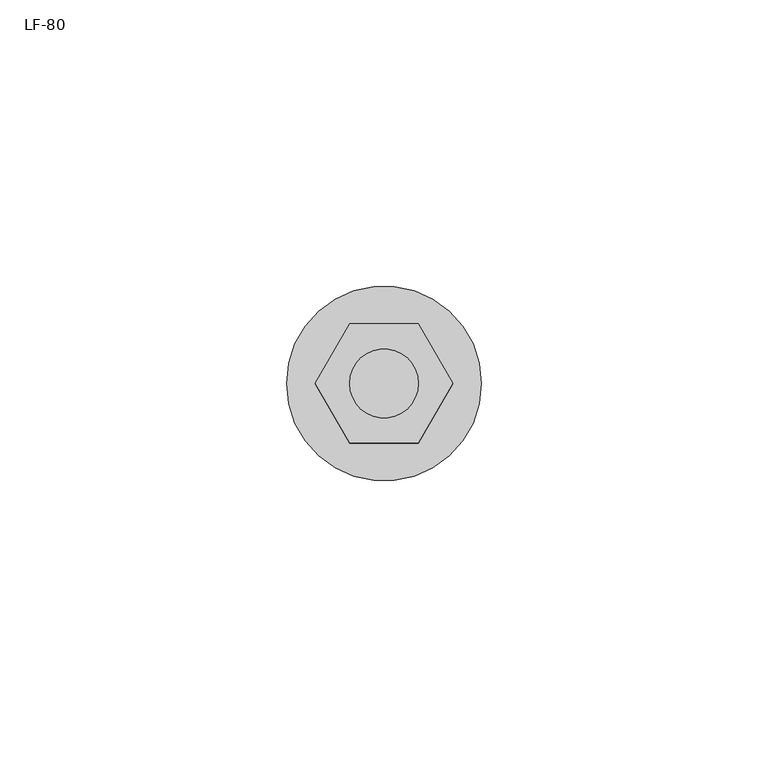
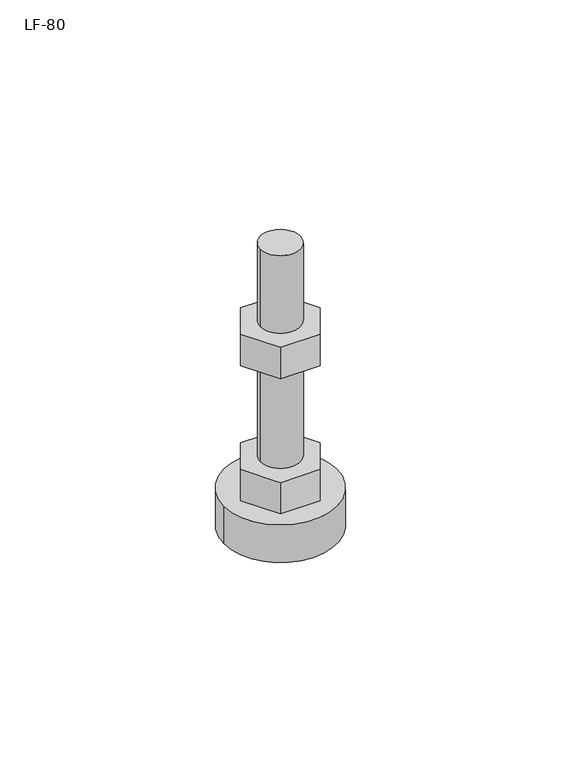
"""IFC4 building model written with IfcOpenShell, lengths in millimetres: proxy geometry, Регулируемая ножка : LF-80."""

import ifcopenshell
import ifcopenshell.guid

model = None  # the IFC model being written
_history = None  # IfcOwnerHistory: only IFC2X3 demands one
_inside = {}  # id of a spatial element -> (the spatial element, [elements in it])
_under = {}  # id of a project, library or spatial element -> (it, [spatial elements below it])
_declared = {}  # id of a project -> (the project, [libraries it declares])
_typed = {}  # id of a type object -> (the type object, [elements of that type])
_made_of = {}  # id of a material, layer set ... -> (it, [elements and type objects made of it])


def new_model(schema):
    """Start an empty IFC model of exactly this schema.

    Asked for "IFC4X3", IfcOpenShell would pick the latest addendum, in which some entities
    have other attributes; the version numbers below select the first issue.
    IFC2X3 requires an IfcOwnerHistory on every rooted entity: one is made here for all.
    """
    global model, _history
    if schema == "IFC4X3":
        model = ifcopenshell.file(schema_version=(4, 3, 0, 0))
    else:
        model = ifcopenshell.file(schema=schema)
    _inside.clear()
    _under.clear()
    _declared.clear()
    _typed.clear()
    _made_of.clear()
    _history = None
    if model.schema == "IFC2X3":
        org = make("IfcOrganization", Name="unknown")
        user = make(
            "IfcPersonAndOrganization",
            ThePerson=make("IfcPerson", FamilyName="unknown"),
            TheOrganization=org,
        )
        app = make(
            "IfcApplication",
            ApplicationDeveloper=org,
            Version="unknown",
            ApplicationFullName="unknown",
            ApplicationIdentifier="unknown",
        )
        _history = make(
            "IfcOwnerHistory",
            OwningUser=user,
            OwningApplication=app,
            ChangeAction="ADDED",
            CreationDate=0,
        )
    return model


def make(cls, **values):
    """One entity of the class cls with the attributes given. An attribute that is None is left unset."""
    return model.create_entity(
        cls, **{name: value for name, value in values.items() if value is not None}
    )


def rooted(cls, **values):
    """An entity with a GlobalId (a new one), such as an element, a storey or a relation."""
    return make(cls, GlobalId=ifcopenshell.guid.new(), OwnerHistory=_history, **values)


def si_unit(unit_type, name, prefix=None):
    """IfcSIUnit, for example si_unit("LENGTHUNIT", "METRE", prefix="MILLI")."""
    return make("IfcSIUnit", UnitType=unit_type, Prefix=prefix, Name=name)


def assignment(units):
    """IfcUnitAssignment: the units of a project."""
    return None if units is None else make("IfcUnitAssignment", Units=units)


def point(xyz):
    """IfcCartesianPoint."""
    return None if xyz is None else make("IfcCartesianPoint", Coordinates=xyz)


def direction(xyz):
    """IfcDirection."""
    return None if xyz is None else make("IfcDirection", DirectionRatios=xyz)


def frame(location, z_axis=None, x_axis=None):
    """IfcAxis2Placement3D, a coordinate frame: its origin and axes. An axis left out is left unset."""
    return make(
        "IfcAxis2Placement3D",
        Location=point(location),
        Axis=direction(z_axis),
        RefDirection=direction(x_axis),
    )


def frame_2d(location, x_axis=None):
    """IfcAxis2Placement2D, a coordinate frame in the plane: its origin and x axis."""
    return make(
        "IfcAxis2Placement2D", Location=point(location), RefDirection=direction(x_axis)
    )


def origin():
    """The frame at (0, 0, 0) with its axes left unset."""
    return frame((0.0, 0.0, 0.0))


def origin_with_axes():
    """The frame at (0, 0, 0) with the z axis (0, 0, 1) and the x axis (1, 0, 0) written out."""
    return frame((0.0, 0.0, 0.0), z_axis=(0.0, 0.0, 1.0), x_axis=(1.0, 0.0, 0.0))


def origin_2d():
    """The frame at (0, 0) in the plane with its x axis left unset."""
    return frame_2d((0.0, 0.0))


def place(relative_to, where):
    """IfcLocalPlacement: puts the frame where relative to a parent placement (None: the world)."""
    return make(
        "IfcLocalPlacement", PlacementRelTo=relative_to, RelativePlacement=where
    )


def context(
    kind, dimensions, precision=None, world=None, true_north=None, identifier=None
):
    """IfcGeometricRepresentationContext, for example the 3D "Model" context."""
    return make(
        "IfcGeometricRepresentationContext",
        ContextIdentifier=identifier,
        ContextType=kind,
        CoordinateSpaceDimension=dimensions,
        Precision=precision,
        WorldCoordinateSystem=world,
        TrueNorth=true_north,
    )


def project(units=None, contexts=None):
    """IfcProject with its units and contexts."""
    return rooted(
        "IfcProject",
        Name="project",
        RepresentationContexts=contexts,
        UnitsInContext=assignment(units),
    )


def spatial(cls, under=None, at=None, **own):
    """A site, building, storey or space (cls), placed at a placement, below another one or the project."""
    s = rooted(cls, ObjectPlacement=at, **own)
    if under is not None:
        _under.setdefault(under.id(), (under, []))[1].append(s)
    return s


def polyline(points):
    """IfcPolyline through the points."""
    return make("IfcPolyline", Points=[point(p) for p in points])


def circle_curve(where, radius):
    """IfcCircle in the frame where."""
    return make("IfcCircle", Position=where, Radius=radius)


def trimmed(basis, trim1, trim2, sense, master):
    """IfcTrimmedCurve: the piece of a basis curve between two trims."""
    return make(
        "IfcTrimmedCurve",
        BasisCurve=basis,
        Trim1=trim1,
        Trim2=trim2,
        SenseAgreement=sense,
        MasterRepresentation=master,
    )


def segment(curve, same_sense, transition):
    """IfcCompositeCurveSegment."""
    return make(
        "IfcCompositeCurveSegment",
        Transition=transition,
        SameSense=same_sense,
        ParentCurve=curve,
    )


def composite_curve(segments, self_intersect=None):
    """IfcCompositeCurve: segments joined end to end."""
    return make("IfcCompositeCurve", Segments=segments, SelfIntersect=self_intersect)


def outline(outer, holes=None, kind="AREA"):
    """IfcArbitraryClosedProfileDef: a profile drawn as a closed curve; with holes, ...WithVoids."""
    if holes is None:
        return make("IfcArbitraryClosedProfileDef", ProfileType=kind, OuterCurve=outer)
    return make(
        "IfcArbitraryProfileDefWithVoids",
        ProfileType=kind,
        OuterCurve=outer,
        InnerCurves=holes,
    )


def extrude(swept, where, along, depth):
    """IfcExtrudedAreaSolid: the profile swept, set in the frame where, extruded along a direction by depth."""
    return make(
        "IfcExtrudedAreaSolid",
        SweptArea=swept,
        Position=where,
        ExtrudedDirection=direction(along),
        Depth=depth,
    )


def shape(context_of_items, identifier, shape_type, items):
    """IfcShapeRepresentation: the items that make up one representation, for example the "Body"."""
    return make(
        "IfcShapeRepresentation",
        ContextOfItems=context_of_items,
        RepresentationIdentifier=identifier,
        RepresentationType=shape_type,
        Items=items,
    )


def source(mapping_origin, context_of_items, identifier, shape_type, items):
    """IfcRepresentationMap: a shape defined once, which mapped items show again and again."""
    return make(
        "IfcRepresentationMap",
        MappingOrigin=mapping_origin,
        MappedRepresentation=shape(context_of_items, identifier, shape_type, items),
    )


def transform(
    local_origin,
    x_axis=None,
    y_axis=None,
    z_axis=None,
    scale=None,
    scale2=None,
    scale3=None,
    uniform=True,
):
    """IfcCartesianTransformationOperator3D, or its non-uniform kind. x_axis, y_axis, z_axis: its Axis1, 2, 3."""
    if uniform:
        return make(
            "IfcCartesianTransformationOperator3D",
            Axis1=direction(x_axis),
            Axis2=direction(y_axis),
            LocalOrigin=point(local_origin),
            Scale=scale,
            Axis3=direction(z_axis),
        )
    return make(
        "IfcCartesianTransformationOperator3DnonUniform",
        Axis1=direction(x_axis),
        Axis2=direction(y_axis),
        LocalOrigin=point(local_origin),
        Scale=scale,
        Axis3=direction(z_axis),
        Scale2=scale2,
        Scale3=scale3,
    )


def mapped(mapping_source, mapping_target):
    """IfcMappedItem: shows the shape of a source again, moved by a transform."""
    return make(
        "IfcMappedItem", MappingSource=mapping_source, MappingTarget=mapping_target
    )


def made_of(thing, what):
    """Note that an element or type object is made of a material, layer set ...; save() writes the relation."""
    if what is not None:
        _made_of.setdefault(what.id(), (what, []))[1].append(thing)
    return thing


def element(
    cls,
    number,
    at=None,
    inside=None,
    cuts=None,
    type_object=None,
    material=None,
    context=None,
    identifier="Body",
    shape_type=None,
    held_by="IfcProductDefinitionShape",
    body=None,
    shapes=None,
    **own,
):
    """One element of the class cls, such as IfcWall. Its Tag is "e" and its number.

    at: its placement. inside: the storey or other place that contains it. cuts: it is an
    opening in that element (IfcRelVoidsElement). A single representation is given by context,
    identifier, shape_type and body (its items); several are given by shapes. held_by: the class
    of the entity that holds the representations. save() writes the other relations.
    """
    e = rooted(cls, Tag="e%d" % number, ObjectPlacement=at, **own)
    if body is not None:
        shapes = [shape(context, identifier, shape_type, body)]
    if shapes is not None:
        e.Representation = make(held_by, Representations=shapes)
    if inside is not None:
        _inside.setdefault(inside.id(), (inside, []))[1].append(e)
    if cuts is not None:
        rooted(
            "IfcRelVoidsElement", RelatingBuildingElement=cuts, RelatedOpeningElement=e
        )
    if type_object is not None:
        _typed.setdefault(type_object.id(), (type_object, []))[1].append(e)
    return made_of(e, material)


def aggregate(whole, parts):
    """IfcRelAggregates: a whole, such as a stair, and the parts it consists of."""
    return rooted("IfcRelAggregates", RelatingObject=whole, RelatedObjects=parts)


def save(model, path):
    """Write the relations noted so far, then the file.

    IfcRelAggregates (storeys below a building ...), IfcRelContainedInSpatialStructure (elements
    in a storey), IfcRelDefinesByType, IfcRelAssociatesMaterial and IfcRelDeclares: one each for
    every whole, place, type object, material and project.
    """
    for whole, parts in _under.values():
        aggregate(whole, parts)
    for where, things in _inside.values():
        rooted(
            "IfcRelContainedInSpatialStructure",
            RelatedElements=things,
            RelatingStructure=where,
        )
    for kind, things in _typed.values():
        rooted("IfcRelDefinesByType", RelatedObjects=things, RelatingType=kind)
    for what, things in _made_of.values():
        rooted("IfcRelAssociatesMaterial", RelatedObjects=things, RelatingMaterial=what)
    for by, libraries in _declared.values():
        rooted("IfcRelDeclares", RelatingContext=by, RelatedDefinitions=libraries)
    model.write(path)


def lf_80_13a86379(model_context):
    return source(origin(), model_context, "Body", "SweptSolid", [
        extrude(outline(polyline([(5.9932057, 10.3805368), (11.9864114, 0.0), (5.9932057, -10.3805368), (-5.9932057, -10.3805368), (-11.9864114, 0.0), (-5.9932057, 10.3805368), (5.9932057, 10.3805368)])), frame((0.0, 0.0, 12.0), z_axis=(0.0, 0.0, 1.0), x_axis=(1.0, 0.0, 0.0)), (0.0, 0.0, 1.0), 10.0),
        extrude(outline(polyline([(5.9932057, 10.3805368), (11.9864114, 0.0), (5.9932057, -10.3805368), (-5.9932057, -10.3805368), (-11.9864114, 0.0), (-5.9932057, 10.3805368), (5.9932057, 10.3805368)])), frame((0.0, 0.0, 55.0), z_axis=(0.0, 0.0, 1.0), x_axis=(1.0, 0.0, 0.0)), (0.0, 0.0, 1.0), 10.0),
        extrude(outline(composite_curve([segment(trimmed(circle_curve(origin_2d(), 6.0), [point((-6.0, 0.0))], [point((6.0, 0.0))], False, "CARTESIAN"), True, "CONTINUOUS"), segment(trimmed(circle_curve(origin_2d(), 6.0), [point((6.0, 0.0))], [point((-6.0, 0.0))], False, "CARTESIAN"), True, "CONTINUOUS")], self_intersect=False)), frame((0.0, 0.0, 12.0), z_axis=(0.0, 0.0, 1.0), x_axis=(1.0, 0.0, 0.0)), (0.0, 0.0, 1.0), 78.0),
        extrude(outline(composite_curve([segment(trimmed(circle_curve(origin_2d(), 17.0), [point((-17.0, 0.0))], [point((17.0, 0.0))], False, "CARTESIAN"), True, "CONTINUOUS"), segment(trimmed(circle_curve(origin_2d(), 17.0), [point((17.0, 0.0))], [point((-17.0, 0.0))], False, "CARTESIAN"), True, "CONTINUOUS")], self_intersect=False)), origin_with_axes(), (0.0, 0.0, 1.0), 12.0),
    ])


if __name__ == "__main__":
    model = new_model("IFC4")
    model_context = context("Model", 3, world=origin())
    ifc_project = project(units=[si_unit("LENGTHUNIT", "METRE", prefix="MILLI")], contexts=[model_context])
    site = spatial("IfcSite", under=ifc_project)
    building = spatial("IfcBuilding", under=site)
    placement = place(None, origin())
    lf_80_shape = lf_80_13a86379(model_context)
    element("IfcBuildingElementProxy", 1, Name="Регулируемая ножка : LF-80", ObjectType="Регулируемая ножка : LF-80", at=placement, inside=building, context=model_context, shape_type="MappedRepresentation", body=[
        mapped(lf_80_shape, transform((0.0, 0.0, 0.0), x_axis=(1.0, 0.0, 0.0), y_axis=(0.0, 1.0, 0.0), z_axis=(0.0, 0.0, 1.0))),
    ])
    save(model, "model.ifc")
